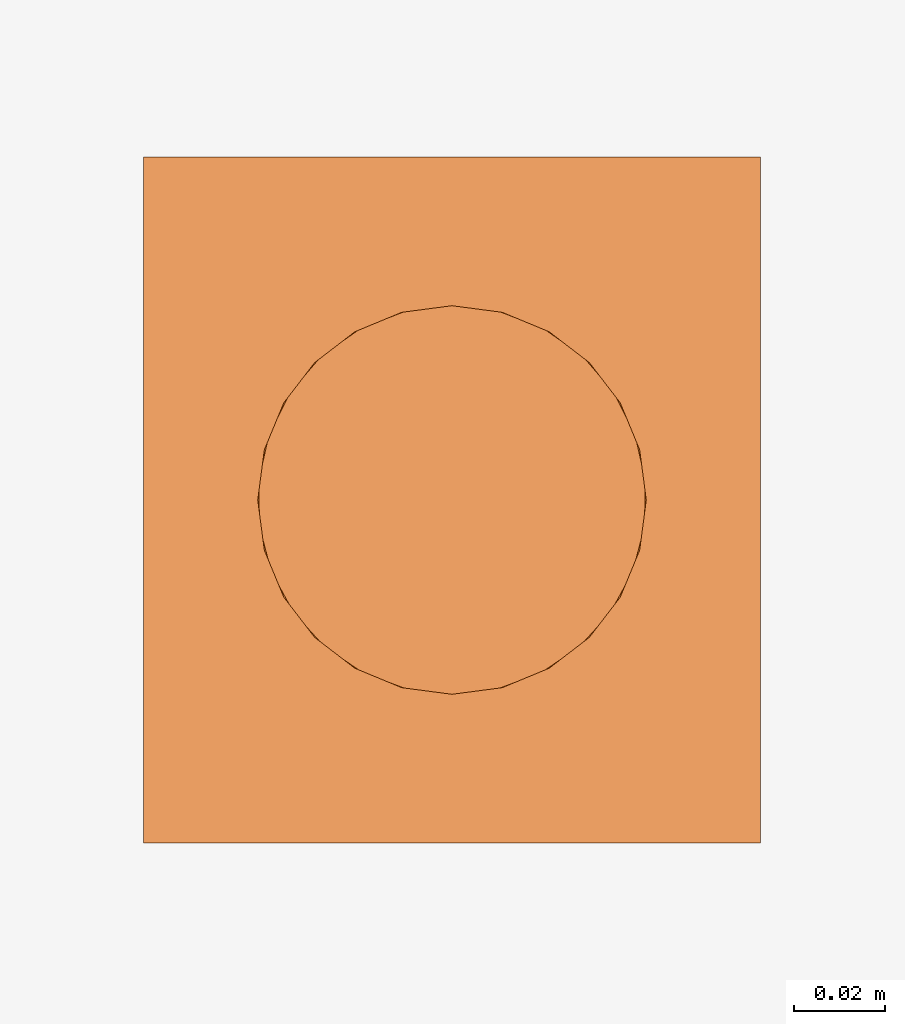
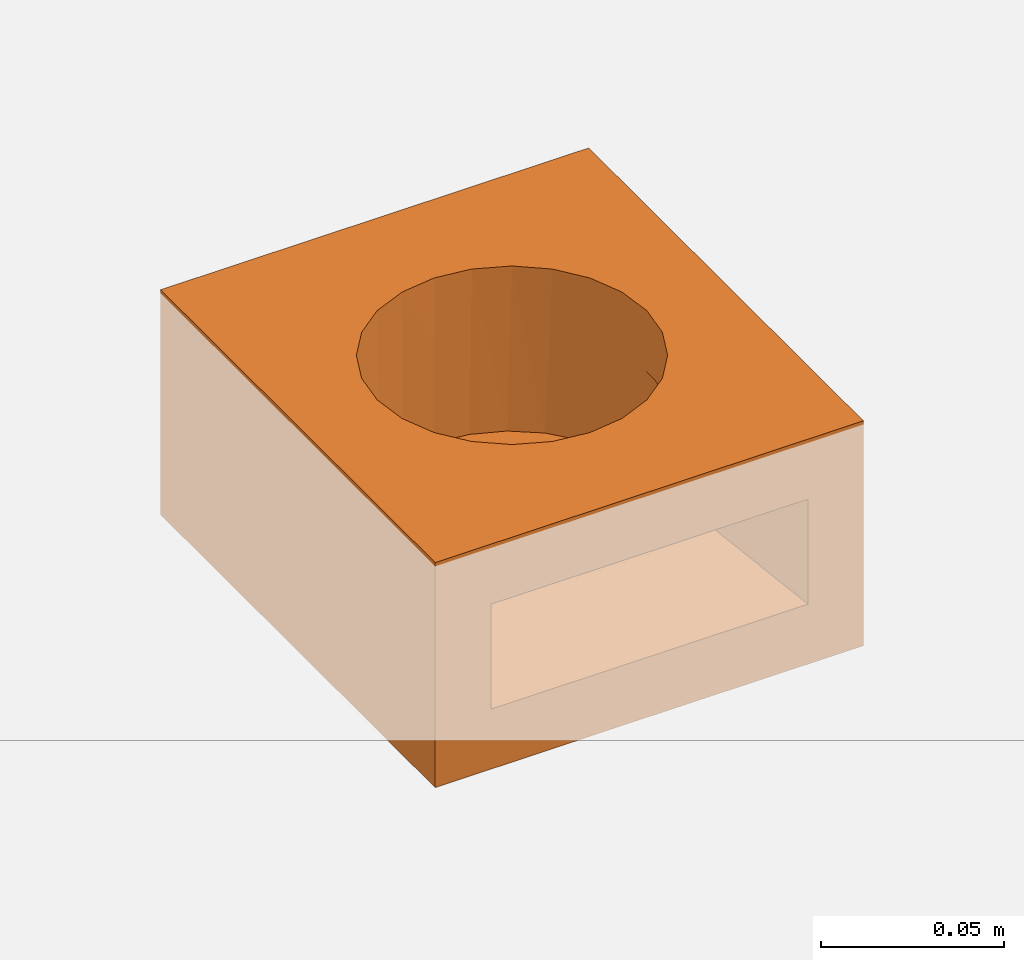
# One storey, part 2 of 2: 1 proxy.
"""IFC2X3 building model written with IfcOpenShell, lengths in millimetres."""

from ifc_helpers import new_model, entity, si_unit, converted_unit, direction, frame, origin, place, context, subcontext, project, spatial, faceted_brep, source, transform, mapped, material, element, save


model = new_model("IFC2X3")

# Units and contexts
model_context = context("Model", 3, precision=1e-06, world=origin(), true_north=direction((2.0, 6.12303176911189e-17, 1.0)))
context_of_model = context(None, 3, precision=1e-06, world=origin(), true_north=direction((2.0, 6.12303176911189e-17, 1.0)))
body_context = subcontext(model_context, "Body", "Model", "MODEL_VIEW")
ifc_project = project(units=[si_unit("LENGTHUNIT", "METRE", prefix="MILLI"), si_unit("AREAUNIT", "SQUARE_METRE", prefix="MILLI"), si_unit("VOLUMEUNIT", "CUBIC_METRE", prefix="MILLI"), converted_unit("PLANEANGLEUNIT", "DEGREE", entity("IfcRatioMeasure", 0.0174532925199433), si_unit("PLANEANGLEUNIT", "RADIAN"), dimensions=[0, 0, 0, 0, 0, 0, 0]), si_unit("TIMEUNIT", "SECOND")], contexts=[model_context, context_of_model])

# Site, building, storey
site_placement = place(None, origin())
site = spatial("IfcSite", under=ifc_project, at=site_placement, Name="Default", CompositionType="ELEMENT")
building_placement = place(site_placement, origin())
building = spatial("IfcBuilding", under=site, at=building_placement, CompositionType="ELEMENT")
storey_placement = place(building_placement, origin())
storey = spatial("IfcBuildingStorey", under=building, at=storey_placement, Name="Level 1", CompositionType="ELEMENT", Elevation=0.0)

# Proxy
ifc_material = material(Name="Grey Polymer Concrete")
shared_shape = source(origin(), body_context, "Body", "Brep", [
    faceted_brep([(-67.5000000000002, 0.0, 0.0), (-36.8060796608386, 53.7499999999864, 0.0), (-38.9289636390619, 58.8750952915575, 0.0), (-41.0518476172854, 64.0001905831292, 0.0), (-30.0520382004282, 44.9479617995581, 0.0), (-41.7759238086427, 69.5000952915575, 0.0), (-42.5000000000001, 75.0, 0.0), (0.0, 32.4999999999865, 0.0), (-10.999809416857, 33.948152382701, 0.0), (67.5000000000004, 0.0, 0.0), (-21.2499999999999, 38.1939203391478, 0.0), (-41.0518476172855, 85.9998094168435, 0.0), (-67.5000000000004, 150.0, 0.0), (-36.8060796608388, 96.2499999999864, 0.0), (-30.0520382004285, 105.052038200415, 0.0), (-21.2500000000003, 111.806079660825, 0.0), (-10.9998094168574, 116.051847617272, 0.0), (0.0, 117.499999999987, 0.0), (21.2499999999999, 38.1939203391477, 0.0), (10.999809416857, 33.948152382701, 0.0), (30.0520382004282, 44.9479617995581, 0.0), (41.0518476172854, 64.0001905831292, 0.0), (38.928963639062, 58.8750952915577, 0.0), (36.8060796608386, 53.7499999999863, 0.0), (42.5000000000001, 75.0, 0.0), (41.7759238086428, 69.5000952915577, 0.0), (67.5000000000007, 150.0, 0.0), (10.9998094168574, 116.051847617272, 0.0), (21.2500000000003, 111.806079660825, 0.0), (36.8060796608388, 96.2499999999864, 0.0), (41.0518476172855, 85.9998094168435, 0.0), (30.0520382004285, 105.052038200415, 0.0), (-67.5000000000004, 150.0, -75.0), (67.5000000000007, 150.0, -75.0), (67.5000000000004, 0.0, -75.0), (-67.5000000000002, 0.0, -75.0), (-50.0, 0.0, -20.0), (50.0, 0.0, -20.0), (-50.0, 0.0, -55.0), (50.0, 0.0, -55.0), (-20.0533951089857, 112.471473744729, -55.0), (-28.5639609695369, 106.469828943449, -55.0), (-40.0311675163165, 89.2742995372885, -55.0), (0.0, 117.499999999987, -55.0), (-42.3001449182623, 79.1167632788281, -55.0), (42.3001449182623, 79.1167632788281, -55.0), (40.0311675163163, 89.2742995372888, -55.0), (-35.3590019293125, 98.579461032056, -55.0), (-10.3383909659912, 116.223387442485, -55.0), (20.0533951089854, 112.471473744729, -55.0), (10.3383909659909, 116.223387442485, -55.0), (28.5639609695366, 106.469828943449, -55.0), (35.3590019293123, 98.5794610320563, -55.0), (-19.4942393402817, 37.2346106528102, -20.0), (-10.0304773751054, 33.7006110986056, -20.0), (-39.476108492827, 59.255576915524, -20.0), (-34.6450606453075, 50.3835467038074, -20.0), (-27.8565895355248, 42.9023299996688, -20.0), (-42.0767820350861, 69.0171567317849, -20.0), (0.0, 32.4999999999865, -20.0), (-42.3001449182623, 79.1167632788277, -20.0), (0.0, 117.499999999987, -20.0), (39.4761084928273, 59.2555769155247, -20.0), (42.0767820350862, 69.0171567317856, -20.0), (42.3001449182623, 79.1167632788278, -20.0), (19.4942393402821, 37.2346106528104, -20.0), (27.8565895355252, 42.9023299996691, -20.0), (34.6450606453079, 50.3835467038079, -20.0), (10.0304773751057, 33.7006110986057, -20.0)], [[[0, 1, 2, 3]], [[1, 0, 4]], [[0, 3, 5, 6]], [[7, 8, 0, 9]], [[10, 4, 0]], [[8, 10, 0]], [[6, 11, 12, 0]], [[12, 11, 13]], [[13, 14, 12]], [[15, 16, 12]], [[14, 15, 12]], [[12, 16, 17]], [[18, 19, 9]], [[20, 18, 9]], [[9, 21, 22, 23]], [[9, 23, 20]], [[24, 25, 9, 26]], [[19, 7, 9]], [[27, 28, 26]], [[17, 27, 26, 12]], [[29, 30, 26]], [[31, 26, 28]], [[26, 31, 29]], [[30, 24, 26]], [[32, 33, 34, 35]], [[0, 36, 37, 9]], [[38, 36, 0, 35]], [[9, 37, 39, 34]], [[39, 38, 35, 34]], [[26, 9, 34, 33]], [[12, 26, 33, 32]], [[0, 12, 32, 35]], [[40, 41, 42, 43]], [[42, 44, 45, 46]], [[42, 41, 47]], [[44, 38, 39, 45]], [[40, 43, 48]], [[49, 50, 43, 46]], [[51, 49, 46, 52]], [[46, 43, 42]], [[10, 8, 53]], [[54, 8, 7]], [[55, 3, 2, 1]], [[1, 4, 56]], [[4, 10, 57]], [[58, 6, 5, 3]], [[7, 59, 54]], [[53, 8, 54]], [[53, 57, 10]], [[57, 56, 4]], [[1, 56, 55]], [[55, 58, 3]], [[58, 60, 6]], [[11, 60, 42]], [[6, 60, 11]], [[11, 42, 13]], [[40, 16, 15]], [[15, 14, 41]], [[14, 13, 47]], [[17, 16, 61]], [[47, 13, 42]], [[14, 47, 41]], [[60, 44, 42]], [[40, 48, 16]], [[15, 41, 40]], [[61, 48, 43]], [[16, 48, 61]], [[17, 61, 27]], [[27, 49, 28]], [[22, 21, 62, 23]], [[25, 24, 63, 21]], [[52, 29, 31]], [[29, 46, 30]], [[64, 24, 30]], [[51, 31, 28]], [[30, 46, 64]], [[50, 61, 43]], [[50, 27, 61]], [[52, 31, 51]], [[50, 49, 27]], [[49, 51, 28]], [[52, 46, 29]], [[46, 45, 64]], [[65, 19, 18]], [[18, 20, 66]], [[20, 23, 67]], [[7, 19, 68]], [[62, 21, 63]], [[23, 62, 67]], [[67, 66, 20]], [[66, 65, 18]], [[19, 65, 68]], [[68, 59, 7]], [[24, 64, 63]], [[36, 60, 58]], [[36, 55, 56]], [[55, 36, 58]], [[37, 63, 64]], [[37, 67, 62]], [[37, 62, 63]], [[36, 57, 53]], [[36, 54, 59, 37]], [[53, 54, 36]], [[36, 56, 57]], [[37, 65, 66]], [[37, 59, 68]], [[65, 37, 68]], [[67, 37, 66]], [[38, 44, 60, 36]], [[45, 39, 37, 64]], [[9, 25, 21]]]),
])
proxy_placement = place(storey_placement, frame((-2103.18060311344, 3055.13485353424, 0.0)))
element("IfcBuildingElementProxy", 1, at=proxy_placement, inside=storey, material=ifc_material, Name="Civil-Drainage-Channel-ACO-MultiDrain-M100D-Channel-System:23450 - CFD075 Downpipe connector - 75mm high:23450 - CFD075 Downpipe connector - 75mm high", ObjectType="23450 - CFD075 Downpipe connector - 75mm high", CompositionType="ELEMENT", context=body_context, shape_type="MappedRepresentation", body=[
    mapped(shared_shape, transform((0.0, 0.0, 0.0), scale=1.0)),
])

save(model, "model.ifc")
